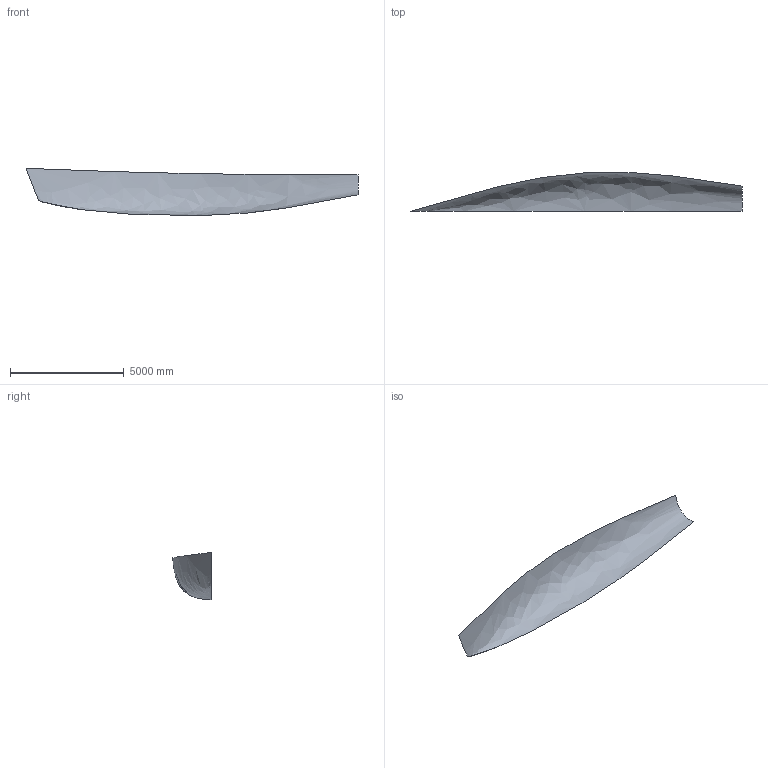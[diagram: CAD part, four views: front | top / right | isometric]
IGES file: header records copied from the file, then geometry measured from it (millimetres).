
Start section: DATA transfer to IGES file format           James R Teeters           17 Goodwin Street           Newport, RI 02840
Global section: file name: UssaM4.igs; author: Jim Teeters; organization: Newport RI; date: 951128.120000; units: metre
Bounding box: 14612.59 x 1701.67 x 2081.93 mm (x, y, z)
Surface area: 34099373.7 mm2 (no closed solid volume)
Topology: 0 solids, 0 shells, 1 faces, 4 edges, 4 vertices
Faces by surface type: bspline 1
